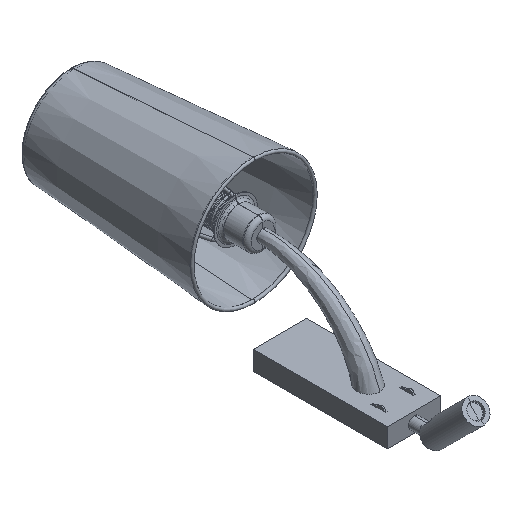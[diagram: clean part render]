
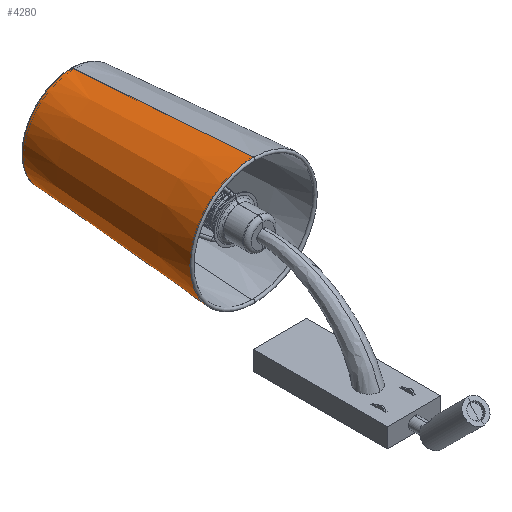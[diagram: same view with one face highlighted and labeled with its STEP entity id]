
A CAD part, isometric view. The second image highlights one B-rep face of the part: STEP entity #4280.
In plain terms, the highlighted conical face has half-angle 4.17 degrees and reference radius 66.848 mm.
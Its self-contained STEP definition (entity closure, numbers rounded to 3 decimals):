
#24=CONICAL_SURFACE('',#4768,66.848,0.073);
#560=FACE_OUTER_BOUND('',#861,.T.);
#861=EDGE_LOOP('',(#3796,#3797,#3798,#3799));
#1202=LINE('',#8817,#1535);
#1203=LINE('',#8821,#1536);
#1535=VECTOR('',#6027,304.8);
#1536=VECTOR('',#6030,304.8);
#1743=CIRCLE('',#4769,65.125);
#1744=CIRCLE('',#4770,82.355);
#2082=VERTEX_POINT('',#8815);
#2083=VERTEX_POINT('',#8816);
#2084=VERTEX_POINT('',#8818);
#2085=VERTEX_POINT('',#8820);
#2654=EDGE_CURVE('',#2082,#2083,#1202,.T.);
#2655=EDGE_CURVE('',#2084,#2082,#1743,.T.);
#2656=EDGE_CURVE('',#2085,#2084,#1203,.T.);
#2657=EDGE_CURVE('',#2083,#2085,#1744,.T.);
#3796=ORIENTED_EDGE('',*,*,#2654,.F.);
#3797=ORIENTED_EDGE('',*,*,#2655,.F.);
#3798=ORIENTED_EDGE('',*,*,#2656,.F.);
#3799=ORIENTED_EDGE('',*,*,#2657,.F.);
#4280=ADVANCED_FACE('',(#560),#24,.T.);
#4768=AXIS2_PLACEMENT_3D('',#8814,#6025,#6026);
#4769=AXIS2_PLACEMENT_3D('',#8819,#6028,#6029);
#4770=AXIS2_PLACEMENT_3D('',#8822,#6031,#6032);
#6025=DIRECTION('center_axis',(0.,0.,
-1.));
#6026=DIRECTION('ref_axis',(0.,1.,0.));
#6027=DIRECTION('',(-0.073,0.,-0.997));
#6028=DIRECTION('center_axis',(0.,0.,
1.));
#6029=DIRECTION('ref_axis',(-0.809,-0.588,0.));
#6030=DIRECTION('',(-0.073,0.,0.997));
#6031=DIRECTION('center_axis',(0.,0.,
-1.));
#6032=DIRECTION('ref_axis',(-0.809,-0.588,0.));
#8814=CARTESIAN_POINT('Origin',(0.,0.,
212.66));
#8815=CARTESIAN_POINT('',(-65.125,0.,236.29));
#8816=CARTESIAN_POINT('',(-82.355,0.,-0.007));
#8817=CARTESIAN_POINT('',(-65.125,0.,236.29));
#8818=CARTESIAN_POINT('',(65.125,0.,236.29));
#8819=CARTESIAN_POINT('Origin',(0.,0.,
236.29));
#8820=CARTESIAN_POINT('',(82.355,0.,-0.007));
#8821=CARTESIAN_POINT('',(82.355,0.,-0.007));
#8822=CARTESIAN_POINT('Origin',(0.,0.,
-0.007));
